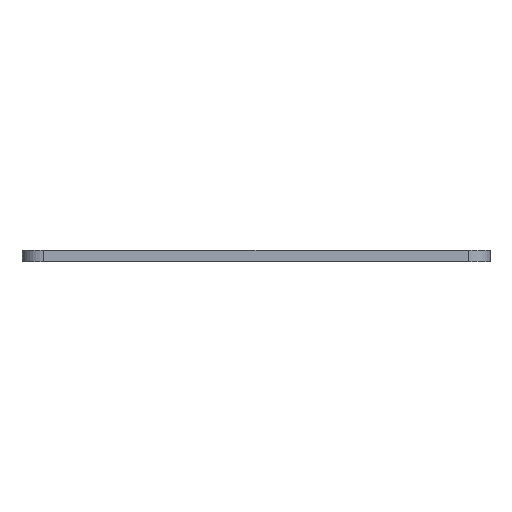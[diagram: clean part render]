
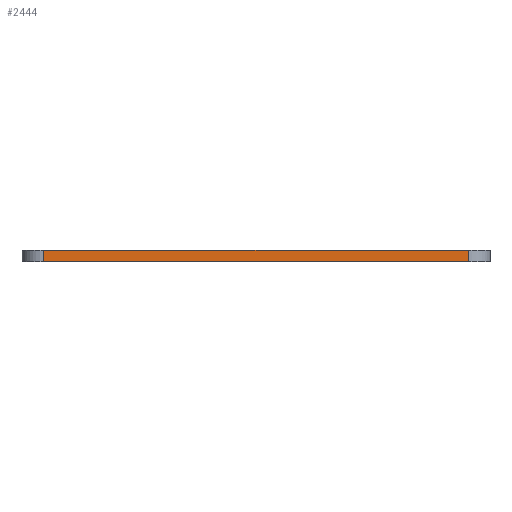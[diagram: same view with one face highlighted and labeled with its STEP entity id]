
A CAD part, front view. The second image highlights one B-rep face of the part: STEP entity #2444.
In plain terms, the highlighted planar face has unit normal (0, -1, 0).
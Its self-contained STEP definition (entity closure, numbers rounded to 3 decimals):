
#543=FACE_OUTER_BOUND('',#846,.T.);
#846=EDGE_LOOP('',(#2033,#2034,#2035,#2036));
#951=LINE('',#3708,#1078);
#958=LINE('',#3924,#1085);
#972=LINE('',#4147,#1099);
#973=LINE('',#4149,#1100);
#1078=VECTOR('',#2929,1.);
#1085=VECTOR('',#3140,1.);
#1099=VECTOR('',#3372,1.);
#1100=VECTOR('',#3375,1.);
#1209=VERTEX_POINT('',#3705);
#1210=VERTEX_POINT('',#3707);
#1316=VERTEX_POINT('',#3921);
#1317=VERTEX_POINT('',#3923);
#1434=EDGE_CURVE('',#1209,#1210,#951,.T.);
#1542=EDGE_CURVE('',#1317,#1316,#958,.T.);
#1654=EDGE_CURVE('',#1210,#1316,#972,.T.);
#1655=EDGE_CURVE('',#1209,#1317,#973,.T.);
#2033=ORIENTED_EDGE('',*,*,#1655,.T.);
#2034=ORIENTED_EDGE('',*,*,#1542,.T.);
#2035=ORIENTED_EDGE('',*,*,#1654,.F.);
#2036=ORIENTED_EDGE('',*,*,#1434,.F.);
#2426=PLANE('',#2791);
#2444=ADVANCED_FACE('',(#543),#2426,.T.);
#2791=AXIS2_PLACEMENT_3D('',#4150,#3376,#3377);
#2929=DIRECTION('',(-1.,0.,0.));
#3140=DIRECTION('',(-1.,0.,0.));
#3372=DIRECTION('',(0.,0.,1.));
#3375=DIRECTION('',(0.,0.,1.));
#3376=DIRECTION('center_axis',(0.,-1.,0.));
#3377=DIRECTION('ref_axis',(-1.,0.,0.));
#3705=CARTESIAN_POINT('',(62.,0.,0.));
#3707=CARTESIAN_POINT('',(3.,0.,0.));
#3708=CARTESIAN_POINT('',(62.,0.,0.));
#3921=CARTESIAN_POINT('',(3.,0.,1.6));
#3923=CARTESIAN_POINT('',(62.,0.,1.6));
#3924=CARTESIAN_POINT('',(62.,0.,1.6));
#4147=CARTESIAN_POINT('',(3.,0.,0.));
#4149=CARTESIAN_POINT('',(62.,0.,0.));
#4150=CARTESIAN_POINT('Origin',(62.,0.,0.));
